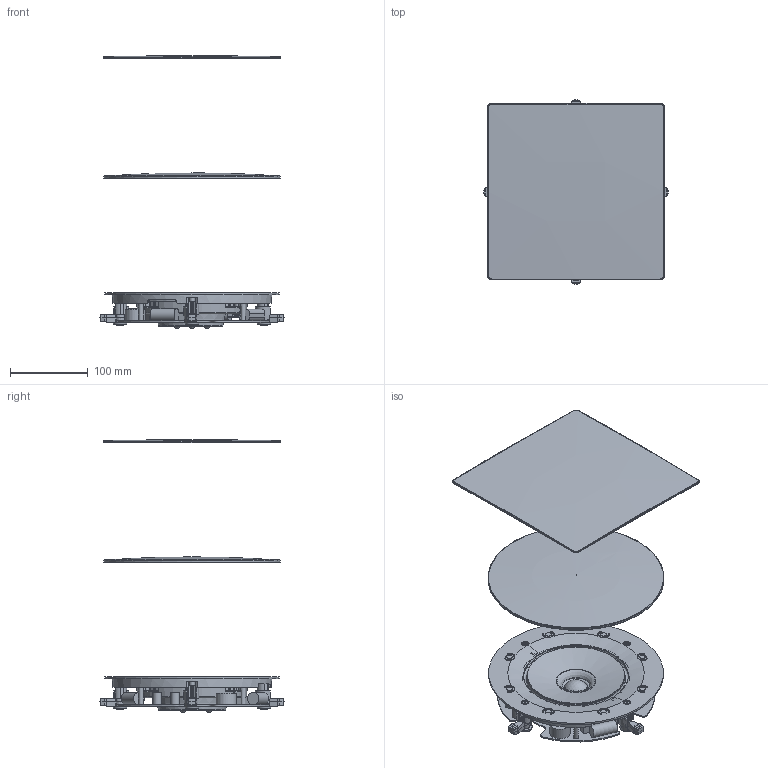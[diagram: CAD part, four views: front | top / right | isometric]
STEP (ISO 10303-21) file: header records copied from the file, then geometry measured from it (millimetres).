
FILE_DESCRIPTION(/* description */ (''),/* implementation_level */ '2;1');
FILE_NAME(/* name */ 'THE6 PRO PASSIVE CEILING v18.step',/* time_stamp */ '2023-08-29T22:10:35+02:00',/* author */ (''),/* organization */ (''),/* preprocessor_version */ 'ST-DEVELOPER v20',/* originating_system */ 'Autodesk Translation Framework v12.9.0.99',/* authorisation */ '');
FILE_SCHEMA (('AUTOMOTIVE_DESIGN { 1 0 10303 214 3 1 1 }'));
Length unit declared in the file: millimetre
Products named in the file (4): THE6 PRO PASSIVE CEILING; Grille_Circular; Grille_Square; COMBINE_Speaker
Assembly tree (3 placements, depth 2):
  THE6 PRO PASSIVE CEILING
    Grille_Circular
    Grille_Square
    COMBINE_Speaker
Bounding box: 236.92 x 236.92 x 350.5 mm (x, y, z)
Volume: 365399.8 mm3; surface area: 488734.4 mm2
Topology: 6 solids, 9 shells, 3344 faces, 8833 edges, 5591 vertices
Faces by surface type: plane 1723, cylinder 824, torus 294, bspline 276, cone 171, sphere 56
Full cylindrical faces by diameter (mm): 1.3 x2, 1.9 x2, 2 x2, 2.1 x2, 2.9 x2, 3 x66, 3.2 x8, 3.3 x18, 3.5 x26, 4 x1, 4.1 x3, 4.2 x8, 4.5 x4, 5 x1, 6 x1, 7 x4, 7.5 x8, 7.6 x4, 7.7 x8, 9.4 x4, 10 x4, 11 x4, 11.5 x2, 16 x1, 22.7 x1, 26 x1, 27.5 x1, 28.3 x1, 28.5 x1, 29.5 x1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
Entity records: 154726 total; most frequent: CARTESIAN_POINT 71826, ORIENTED_EDGE 17668, DIRECTION 16771, EDGE_CURVE 8834, AXIS2_PLACEMENT_3D 6256, VERTEX_POINT 5597, LINE 4259, VECTOR 4259
